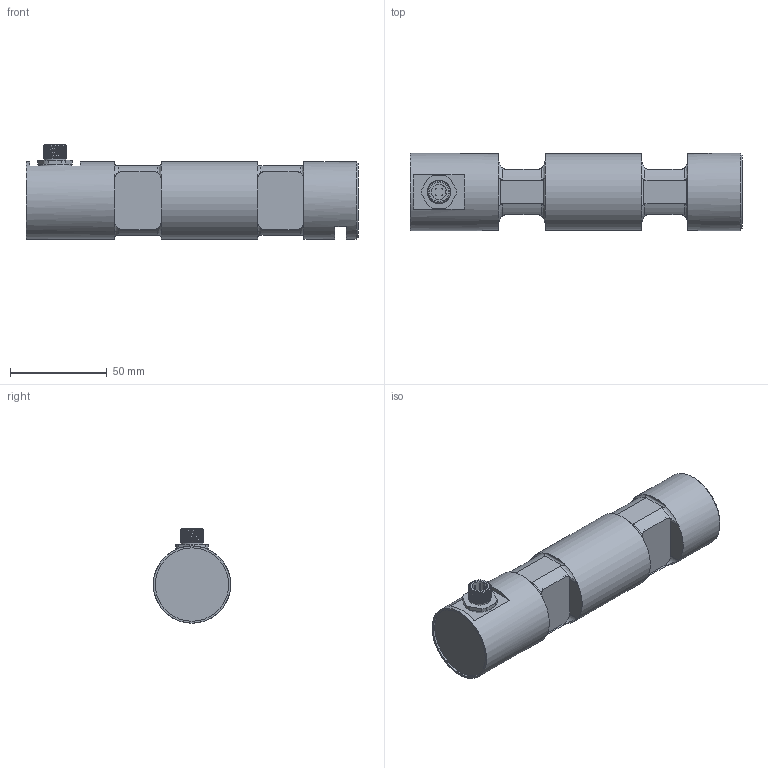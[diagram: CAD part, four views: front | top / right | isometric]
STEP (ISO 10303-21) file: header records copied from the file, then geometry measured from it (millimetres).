
FILE_DESCRIPTION(/* description */ ('Alibre Inc.'),/* implementation_level */ '2;1');
FILE_NAME(/* name */ 'export1',/* time_stamp */ '2014-08-07T14:12:44+02:00',/* author */ (''),/* organization */ (''),/* preprocessor_version */ 'ST-DEVELOPER v14',/* originating_system */ 'Alibre',/* authorisation */ '');
FILE_SCHEMA (('CONFIG_CONTROL_DESIGN'));
Length unit declared in the file: centimetre
Products named in the file (6): ID_1; ID_2; ID_3
Bounding box: 172 x 40 x 48.86 mm (x, y, z)
Volume: 189322.4 mm3; surface area: 29745.8 mm2
Topology: 8 solids, 8 shells, 199 faces, 454 edges, 278 vertices
Faces by surface type: plane 83, cylinder 71, bspline 23, torus 17, cone 5
Full cylindrical faces by diameter (mm): 0.5 x8, 8 x2, 10 x4, 11.5 x1, 13 x1, 14.376 x1, 38 x1, 40 x3
Entity records: 17423 total; most frequent: CARTESIAN_POINT 13280, ORIENTED_EDGE 836, DIRECTION 499, EDGE_CURVE 413, VERTEX_POINT 266, FACE_BOUND 242, EDGE_LOOP 241, AXIS2_PLACEMENT_3D 220
